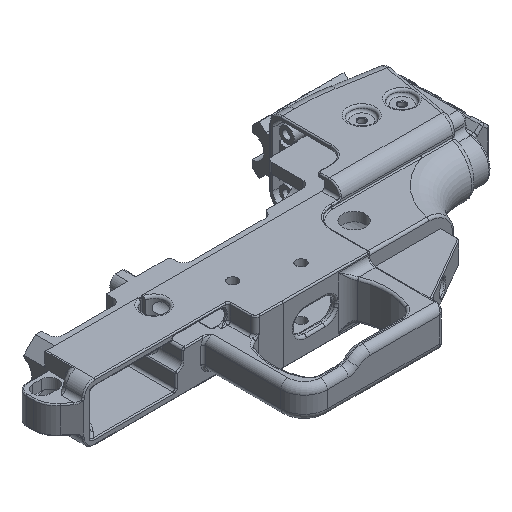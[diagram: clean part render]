
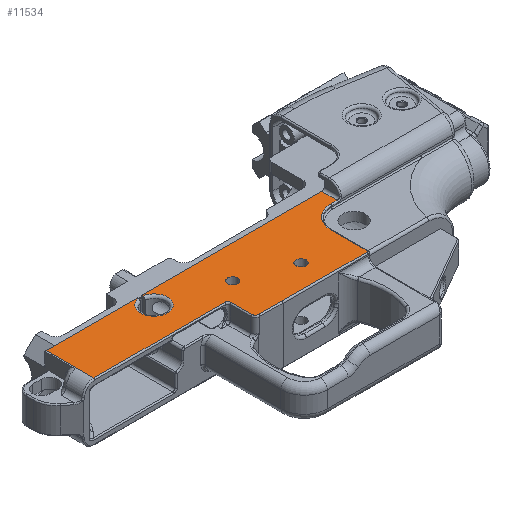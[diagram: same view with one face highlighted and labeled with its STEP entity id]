
A CAD part, isometric view. The second image highlights one B-rep face of the part: STEP entity #11534.
In plain terms, the highlighted planar face has unit normal (0, 0, 1) as drawn and (0, 0, -1) by its records, which use the part's own axes.
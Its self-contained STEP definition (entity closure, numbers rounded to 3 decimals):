
#192=FACE_BOUND('',#2251,.T.);
#193=FACE_BOUND('',#2252,.T.);
#549=CIRCLE('',#12264,2.175);
#551=CIRCLE('',#12267,2.175);
#599=CIRCLE('',#12346,5.875);
#602=CIRCLE('',#12353,0.5);
#605=CIRCLE('',#12357,0.5);
#609=CIRCLE('',#12363,1.5);
#610=CIRCLE('',#12364,1.5);
#611=CIRCLE('',#12365,0.5);
#612=CIRCLE('',#12366,9.5);
#1534=FACE_OUTER_BOUND('',#2250,.T.);
#2250=EDGE_LOOP('',(#7943,#7944,#7945,#7946,#7947,#7948,#7949,#7950,#7951,
#7952,#7953,#7954,#7955,#7956,#7957,#7958,#7959,#7960,#7961));
#2251=EDGE_LOOP('',(#7962));
#2252=EDGE_LOOP('',(#7963));
#2956=LINE('',#17332,#3840);
#2996=LINE('',#17995,#3880);
#3036=LINE('',#18155,#3920);
#3038=LINE('',#18324,#3922);
#3046=LINE('',#18387,#3930);
#3047=LINE('',#18389,#3931);
#3048=LINE('',#18393,#3932);
#3049=LINE('',#18397,#3933);
#3050=LINE('',#18399,#3934);
#3051=LINE('',#18403,#3935);
#3052=LINE('',#18407,#3936);
#3053=LINE('',#18408,#3937);
#3840=VECTOR('',#13659,10.);
#3880=VECTOR('',#13839,10.);
#3920=VECTOR('',#13969,10.);
#3922=VECTOR('',#13977,10.);
#3930=VECTOR('',#14007,39.75);
#3931=VECTOR('',#14008,10.);
#3932=VECTOR('',#14011,10.);
#3933=VECTOR('',#14014,10.);
#3934=VECTOR('',#14015,10.);
#3935=VECTOR('',#14018,10.);
#3936=VECTOR('',#14021,10.);
#3937=VECTOR('',#14022,10.);
#4730=VERTEX_POINT('',#17329);
#4731=VERTEX_POINT('',#17331);
#4769=VERTEX_POINT('',#17462);
#4771=VERTEX_POINT('',#17468);
#4810=VERTEX_POINT('',#17992);
#4811=VERTEX_POINT('',#17994);
#4861=VERTEX_POINT('',#18122);
#4862=VERTEX_POINT('',#18133);
#4866=VERTEX_POINT('',#18153);
#4873=VERTEX_POINT('',#18323);
#4878=VERTEX_POINT('',#18338);
#4884=VERTEX_POINT('',#18388);
#4885=VERTEX_POINT('',#18390);
#4886=VERTEX_POINT('',#18392);
#4887=VERTEX_POINT('',#18394);
#4888=VERTEX_POINT('',#18396);
#4889=VERTEX_POINT('',#18398);
#4890=VERTEX_POINT('',#18400);
#4891=VERTEX_POINT('',#18402);
#4892=VERTEX_POINT('',#18404);
#4893=VERTEX_POINT('',#18406);
#5839=EDGE_CURVE('',#4730,#4731,#2956,.T.);
#5887=EDGE_CURVE('',#4769,#4769,#549,.T.);
#5890=EDGE_CURVE('',#4771,#4771,#551,.T.);
#5945=EDGE_CURVE('',#4810,#4811,#2996,.T.);
#6009=EDGE_CURVE('',#4861,#4862,#599,.T.);
#6016=EDGE_CURVE('',#4861,#4866,#3036,.T.);
#6025=EDGE_CURVE('',#4873,#4862,#3038,.T.);
#6029=EDGE_CURVE('',#4730,#4873,#602,.T.);
#6033=EDGE_CURVE('',#4866,#4878,#605,.T.);
#6041=EDGE_CURVE('',#4811,#4878,#3046,.T.);
#6042=EDGE_CURVE('',#4884,#4810,#3047,.T.);
#6043=EDGE_CURVE('',#4885,#4884,#609,.T.);
#6044=EDGE_CURVE('',#4886,#4885,#3048,.T.);
#6045=EDGE_CURVE('',#4887,#4886,#610,.T.);
#6046=EDGE_CURVE('',#4888,#4887,#3049,.T.);
#6047=EDGE_CURVE('',#4889,#4888,#3050,.T.);
#6048=EDGE_CURVE('',#4890,#4889,#611,.T.);
#6049=EDGE_CURVE('',#4891,#4890,#3051,.T.);
#6050=EDGE_CURVE('',#4892,#4891,#612,.T.);
#6051=EDGE_CURVE('',#4893,#4892,#3052,.T.);
#6052=EDGE_CURVE('',#4731,#4893,#3053,.T.);
#7943=ORIENTED_EDGE('',*,*,#6041,.F.);
#7944=ORIENTED_EDGE('',*,*,#5945,.F.);
#7945=ORIENTED_EDGE('',*,*,#6042,.F.);
#7946=ORIENTED_EDGE('',*,*,#6043,.F.);
#7947=ORIENTED_EDGE('',*,*,#6044,.F.);
#7948=ORIENTED_EDGE('',*,*,#6045,.F.);
#7949=ORIENTED_EDGE('',*,*,#6046,.F.);
#7950=ORIENTED_EDGE('',*,*,#6047,.F.);
#7951=ORIENTED_EDGE('',*,*,#6048,.F.);
#7952=ORIENTED_EDGE('',*,*,#6049,.F.);
#7953=ORIENTED_EDGE('',*,*,#6050,.F.);
#7954=ORIENTED_EDGE('',*,*,#6051,.F.);
#7955=ORIENTED_EDGE('',*,*,#6052,.F.);
#7956=ORIENTED_EDGE('',*,*,#5839,.F.);
#7957=ORIENTED_EDGE('',*,*,#6029,.T.);
#7958=ORIENTED_EDGE('',*,*,#6025,.T.);
#7959=ORIENTED_EDGE('',*,*,#6009,.F.);
#7960=ORIENTED_EDGE('',*,*,#6016,.T.);
#7961=ORIENTED_EDGE('',*,*,#6033,.T.);
#7962=ORIENTED_EDGE('',*,*,#5890,.T.);
#7963=ORIENTED_EDGE('',*,*,#5887,.T.);
#11255=PLANE('',#12362);
#11534=ADVANCED_FACE('',(#1534,#192,#193),#11255,.T.);
#12264=AXIS2_PLACEMENT_3D('',#17463,#13744,#13745);
#12267=AXIS2_PLACEMENT_3D('',#17469,#13751,#13752);
#12346=AXIS2_PLACEMENT_3D('',#18134,#13959,#13960);
#12353=AXIS2_PLACEMENT_3D('',#18331,#13983,#13984);
#12357=AXIS2_PLACEMENT_3D('',#18339,#13992,#13993);
#12362=AXIS2_PLACEMENT_3D('',#18386,#14005,#14006);
#12363=AXIS2_PLACEMENT_3D('',#18391,#14009,#14010);
#12364=AXIS2_PLACEMENT_3D('',#18395,#14012,#14013);
#12365=AXIS2_PLACEMENT_3D('',#18401,#14016,#14017);
#12366=AXIS2_PLACEMENT_3D('',#18405,#14019,#14020);
#13659=DIRECTION('',(-1.,0.,0.));
#13744=DIRECTION('center_axis',(0.,0.,1.));
#13745=DIRECTION('ref_axis',(1.,0.,0.));
#13751=DIRECTION('center_axis',(0.,0.,1.));
#13752=DIRECTION('ref_axis',(1.,0.,0.));
#13839=DIRECTION('',(0.,1.,0.));
#13959=DIRECTION('center_axis',(0.,0.,-1.));
#13960=DIRECTION('ref_axis',(0.,-1.,0.));
#13969=DIRECTION('',(0.,1.,0.));
#13977=DIRECTION('',(0.,-1.,0.));
#13983=DIRECTION('center_axis',(0.,0.,1.));
#13984=DIRECTION('ref_axis',(-0.707,0.707,0.));
#13992=DIRECTION('center_axis',(0.,0.,1.));
#13993=DIRECTION('ref_axis',(0.707,0.707,0.));
#14005=DIRECTION('center_axis',(0.,0.,-1.));
#14006=DIRECTION('ref_axis',(1.,0.,0.));
#14007=DIRECTION('',(-1.,0.,0.));
#14008=DIRECTION('',(1.,0.,0.));
#14009=DIRECTION('center_axis',(0.,0.,-1.));
#14010=DIRECTION('ref_axis',(-0.707,0.707,0.));
#14011=DIRECTION('',(0.,1.,0.));
#14012=DIRECTION('center_axis',(0.,0.,1.));
#14013=DIRECTION('ref_axis',(0.71,-0.704,0.));
#14014=DIRECTION('',(1.,0.008,0.));
#14015=DIRECTION('',(1.,0.,0.));
#14016=DIRECTION('center_axis',(0.,0.,1.));
#14017=DIRECTION('ref_axis',(-0.707,-0.707,0.));
#14018=DIRECTION('',(0.,-1.,0.));
#14019=DIRECTION('center_axis',(0.,0.,-1.));
#14020=DIRECTION('ref_axis',(0.707,0.707,0.));
#14021=DIRECTION('',(1.,0.,0.));
#14022=DIRECTION('',(0.,-1.,0.));
#17329=CARTESIAN_POINT('',(111.061,21.019,-12.457));
#17331=CARTESIAN_POINT('',(33.41,21.019,-12.457));
#17332=CARTESIAN_POINT('',(81.026,21.019,-12.457));
#17462=CARTESIAN_POINT('',(62.366,-1.177,-12.457));
#17463=CARTESIAN_POINT('Origin',(64.541,-1.177,-12.457));
#17468=CARTESIAN_POINT('',(83.779,6.799,-12.457));
#17469=CARTESIAN_POINT('Origin',(85.954,6.799,-12.457));
#17992=CARTESIAN_POINT('',(152.201,0.5,-12.457));
#17994=CARTESIAN_POINT('',(152.201,21.019,-12.457));
#17995=CARTESIAN_POINT('',(152.201,-48.911,-12.457));
#18122=CARTESIAN_POINT('',(112.98,20.523,-12.457));
#18133=CARTESIAN_POINT('',(110.999,20.523,-12.457));
#18134=CARTESIAN_POINT('Origin',(111.989,14.732,-12.457));
#18153=CARTESIAN_POINT('',(112.98,20.776,-12.457));
#18155=CARTESIAN_POINT('',(112.98,-44.635,-12.457));
#18323=CARTESIAN_POINT('',(110.999,20.776,-12.457));
#18324=CARTESIAN_POINT('',(110.999,-43.582,-12.457));
#18331=CARTESIAN_POINT('Origin',(111.499,20.776,-12.457));
#18338=CARTESIAN_POINT('',(112.917,21.019,-12.457));
#18339=CARTESIAN_POINT('Origin',(112.48,20.776,-12.457));
#18386=CARTESIAN_POINT('Origin',(83.274,-108.44,-12.457));
#18387=CARTESIAN_POINT('',(152.73,21.019,-12.457));
#18388=CARTESIAN_POINT('',(95.882,0.5,-12.457));
#18389=CARTESIAN_POINT('',(41.637,0.5,-12.457));
#18390=CARTESIAN_POINT('',(94.382,-1.,-12.457));
#18391=CARTESIAN_POINT('Origin',(95.882,-1.,-12.457));
#18392=CARTESIAN_POINT('',(94.382,-9.796,-12.457));
#18393=CARTESIAN_POINT('',(94.382,-54.22,-12.457));
#18394=CARTESIAN_POINT('',(92.893,-11.296,-12.457));
#18395=CARTESIAN_POINT('Origin',(92.882,-9.796,-12.457));
#18396=CARTESIAN_POINT('',(83.007,-11.373,-12.457));
#18397=CARTESIAN_POINT('',(82.761,-11.375,-12.457));
#18398=CARTESIAN_POINT('',(46.306,-11.373,-12.457));
#18399=CARTESIAN_POINT('',(83.141,-11.373,-12.457));
#18400=CARTESIAN_POINT('',(45.806,-10.873,-12.457));
#18401=CARTESIAN_POINT('Origin',(46.306,-10.873,-12.457));
#18402=CARTESIAN_POINT('',(45.806,4.878,-12.457));
#18403=CARTESIAN_POINT('',(45.806,-60.157,-12.457));
#18404=CARTESIAN_POINT('',(36.306,14.378,-12.457));
#18405=CARTESIAN_POINT('Origin',(36.306,4.878,-12.457));
#18406=CARTESIAN_POINT('',(33.41,14.378,-12.457));
#18407=CARTESIAN_POINT('',(44.137,14.378,-12.457));
#18408=CARTESIAN_POINT('',(33.41,-108.44,-12.457));
